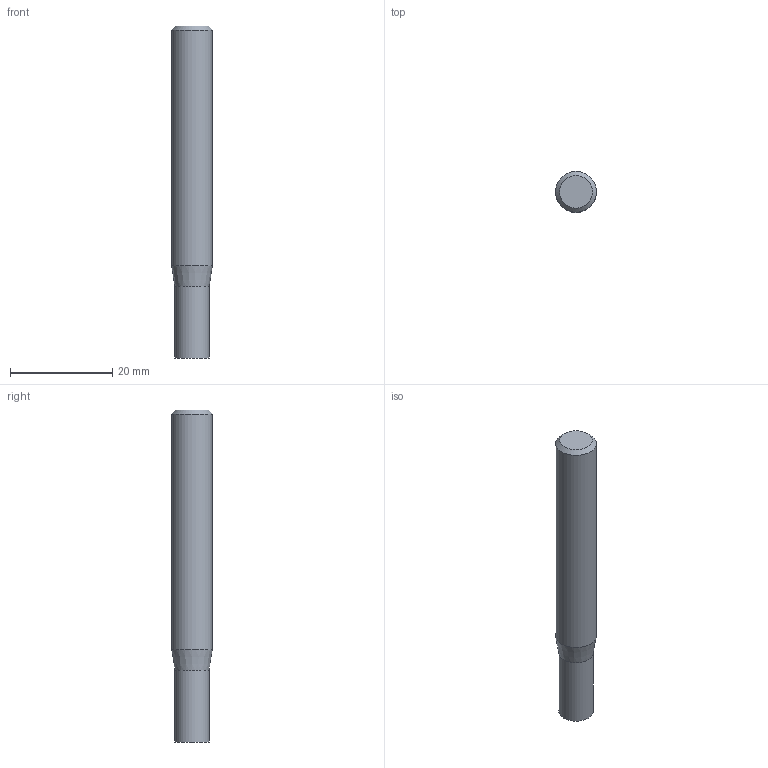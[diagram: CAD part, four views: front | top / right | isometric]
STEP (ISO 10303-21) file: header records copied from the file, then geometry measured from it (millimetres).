
FILE_DESCRIPTION((''),'2;1');
FILE_NAME('C:\Users\nsx150\AppData\Local\Temp\Mastercam 2021\98T1Q6BTT1\TEMP.step','2021-10-21T14:49:13',(''),(''),'STEP Write','Mastercam 2021 ... CNC Software, Inc.','');
FILE_SCHEMA(('AUTOMOTIVE_DESIGN'));
Length unit declared in the file: millimetre
Products named in the file (1): None
Bounding box: 8 x 8 x 65 mm (x, y, z)
Volume: 3017.9 mm3; surface area: 1712.7 mm2
Topology: 2 solids, 2 shells, 8 faces, 10 edges, 6 vertices
Faces by surface type: plane 4, cylinder 2, cone 2
Full cylindrical faces by diameter (mm): 6.7 x1, 8 x1
Entity records: 190 total; most frequent: DIRECTION 32, CARTESIAN_POINT 22, AXIS2_PLACEMENT_3D 16, ORIENTED_EDGE 12, EDGE_LOOP 12, STYLED_ITEM 11, ADVANCED_FACE 8, VERTEX_POINT 6
